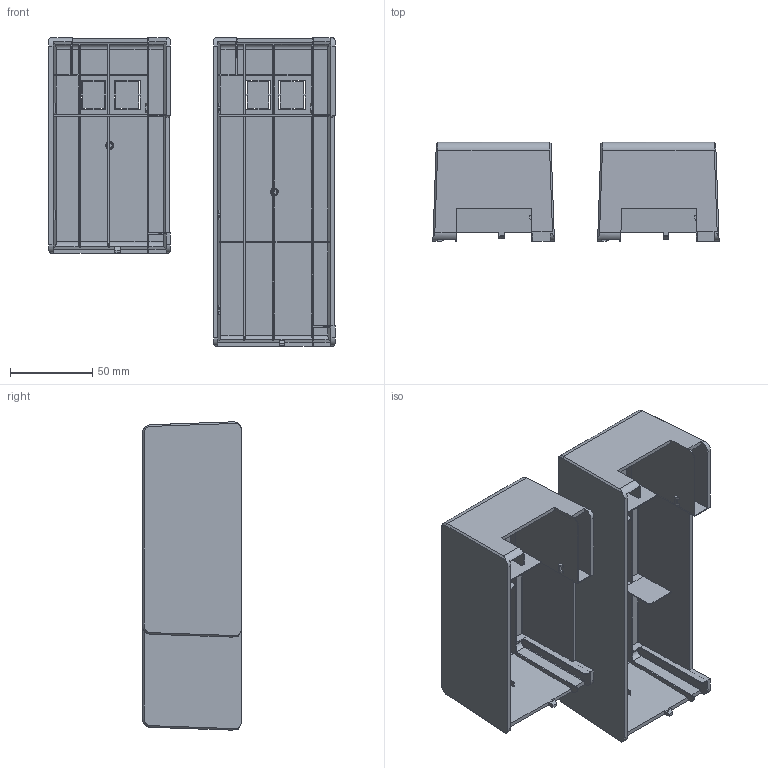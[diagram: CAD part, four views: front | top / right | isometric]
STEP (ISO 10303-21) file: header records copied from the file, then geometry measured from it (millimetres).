
FILE_DESCRIPTION(/* description */ (''),/* implementation_level */ '2;1');
FILE_NAME(/* name */ 'RS-防尘罩.stp',/* time_stamp */ '2024-05-23T13:05:17+08:00',/* author */ (''),/* organization */ (''),/* preprocessor_version */ 'ST-DEVELOPER v16',/* originating_system */ 'SIEMENS PLM Software NX 10.0',/* authorisation */ '');
FILE_SCHEMA (('AP203_CONFIGURATION_CONTROLLED_3D_DESIGN_OF_MECHANICAL_PARTS_AND_ASSEMBLIES_MIM_LF { 1 0 10303 403 2 1 2}'));
Length unit declared in the file: millimetre
Products named in the file (1): chao705CD079wwwg
Bounding box: 173.81 x 60 x 187.23 mm (x, y, z)
Volume: 158862 mm3; surface area: 170703.2 mm2
Topology: 2 solids, 2 shells, 547 faces, 1548 edges, 1002 vertices
Faces by surface type: plane 457, cylinder 62, bspline 16, torus 12
Entity records: 18062 total; most frequent: CARTESIAN_POINT 3880, ORIENTED_EDGE 3084, DIRECTION 2668, EDGE_CURVE 1542, LINE 1320, VECTOR 1320, VERTEX_POINT 1000, AXIS2_PLACEMENT_3D 674
